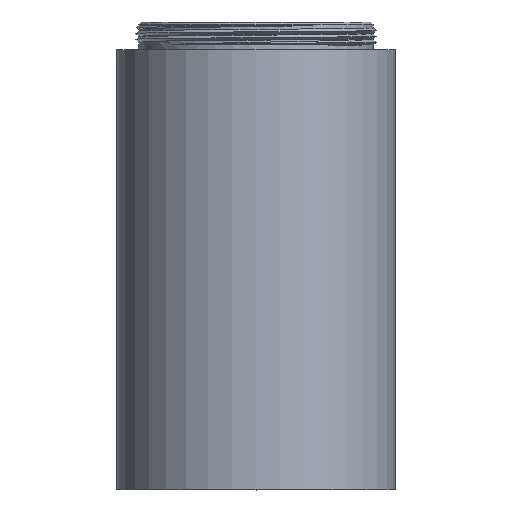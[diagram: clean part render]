
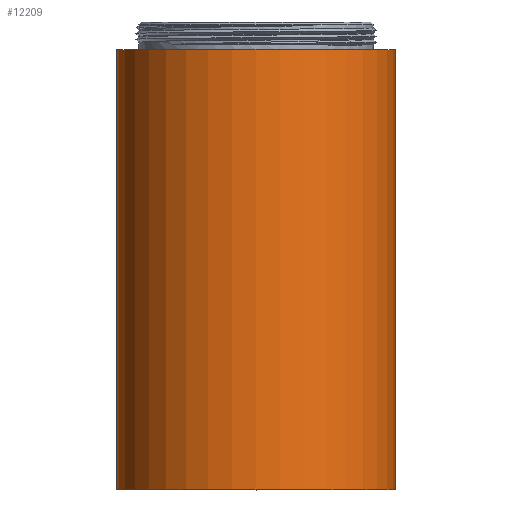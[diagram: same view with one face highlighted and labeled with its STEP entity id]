
A CAD part, top view. The second image highlights one B-rep face of the part: STEP entity #12209.
In plain terms, the highlighted cylindrical face has radius 15.2 mm (diameter 30.4 mm), a partial arc.
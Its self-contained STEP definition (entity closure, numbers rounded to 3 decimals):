
#6=CARTESIAN_POINT('',(0.,0.,0.));
#7=DIRECTION('',(0.,1.,0.));
#8=DIRECTION('',(-1.,0.,0.));
#9=AXIS2_PLACEMENT_3D('',#6,#7,#8);
#57=DIRECTION('',(0.,1.,0.));
#58=VECTOR('',#57,48.);
#59=CARTESIAN_POINT('',(15.2,0.,0.));
#60=LINE('',#59,#58);
#61=DIRECTION('',(0.,1.,0.));
#62=VECTOR('',#61,48.);
#63=CARTESIAN_POINT('',(-15.2,0.,0.));
#64=LINE('',#63,#62);
#70=CARTESIAN_POINT('',(0.,48.,0.));
#71=DIRECTION('',(0.,1.,0.));
#72=DIRECTION('',(-1.,0.,0.));
#73=AXIS2_PLACEMENT_3D('',#70,#71,#72);
#11617=CARTESIAN_POINT('',(15.2,0.,0.));
#11618=CARTESIAN_POINT('',(-15.2,0.,0.));
#11619=VERTEX_POINT('',#11617);
#11620=VERTEX_POINT('',#11618);
#11621=CARTESIAN_POINT('',(15.2,48.,0.));
#11622=CARTESIAN_POINT('',(-15.2,48.,0.));
#11623=VERTEX_POINT('',#11621);
#11624=VERTEX_POINT('',#11622);
#12197=CARTESIAN_POINT('',(0.,0.,0.));
#12198=DIRECTION('',(0.,1.,0.));
#12199=DIRECTION('',(1.,0.,0.));
#12200=AXIS2_PLACEMENT_3D('',#12197,#12198,#12199);
#12201=CYLINDRICAL_SURFACE('',#12200,15.2);
#12202=ORIENTED_EDGE('',*,*,#12169,.F.);
#12203=ORIENTED_EDGE('',*,*,#12192,.T.);
#12205=ORIENTED_EDGE('',*,*,#12204,.T.);
#12206=ORIENTED_EDGE('',*,*,#12188,.F.);
#12207=EDGE_LOOP('',(#12202,#12203,#12205,#12206));
#12208=FACE_OUTER_BOUND('',#12207,.F.);
#12209=ADVANCED_FACE('',(#12208),#12201,.T.);
#10=CIRCLE('',#9,15.2);
#74=CIRCLE('',#73,15.2);
#12169=EDGE_CURVE('',#11620,#11619,#10,.T.);
#12188=EDGE_CURVE('',#11619,#11623,#60,.T.);
#12192=EDGE_CURVE('',#11620,#11624,#64,.T.);
#12204=EDGE_CURVE('',#11624,#11623,#74,.T.);
